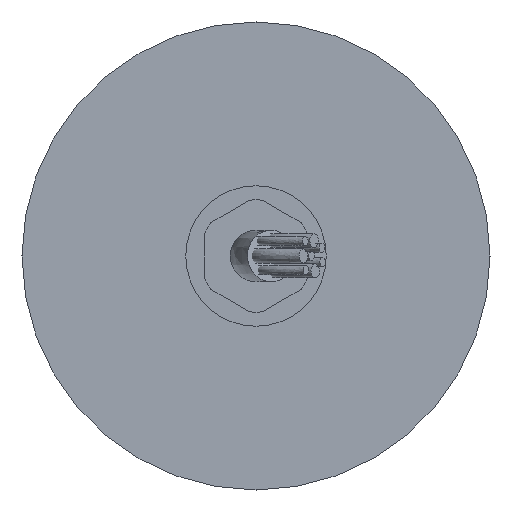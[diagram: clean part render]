
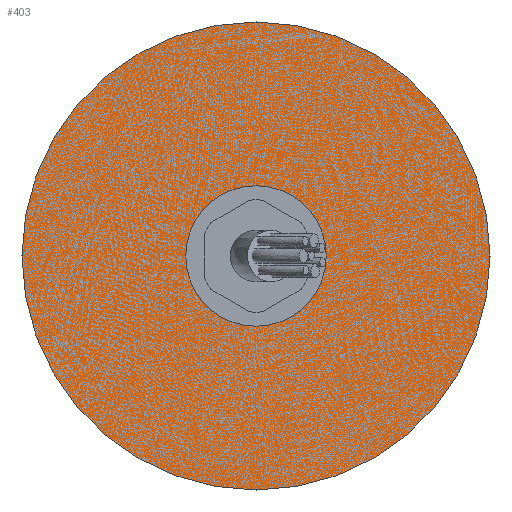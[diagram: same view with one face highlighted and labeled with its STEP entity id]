
A CAD part, front view. The second image highlights one B-rep face of the part: STEP entity #403.
In plain terms, the highlighted planar face has unit normal (0, -1, 0).
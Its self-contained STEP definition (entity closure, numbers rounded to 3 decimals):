
#403=ADVANCED_FACE('',(#523),#480,.F.);
#480=PLANE('',#1138);
#523=FACE_OUTER_BOUND('',#577,.T.);
#577=EDGE_LOOP('',(#677));
#677=ORIENTED_EDGE('',*,*,#977,.T.);
#893=VERTEX_POINT('',#1546);
#977=EDGE_CURVE('',#893,#893,#1085,.T.);
#1085=CIRCLE('',#1137,25.);
#1137=AXIS2_PLACEMENT_3D('',#1545,#1258,#1259);
#1138=AXIS2_PLACEMENT_3D('',#1547,#1260,#1261);
#1258=DIRECTION('',(0.,-1.,0.));
#1259=DIRECTION('',(0.,0.,-1.));
#1260=DIRECTION('',(0.,1.,0.));
#1261=DIRECTION('',(0.,0.,1.));
#1545=CARTESIAN_POINT('',(0.,0.,0.));
#1546=CARTESIAN_POINT('',(0.,0.,-25.));
#1547=CARTESIAN_POINT('',(0.,0.,25.));
